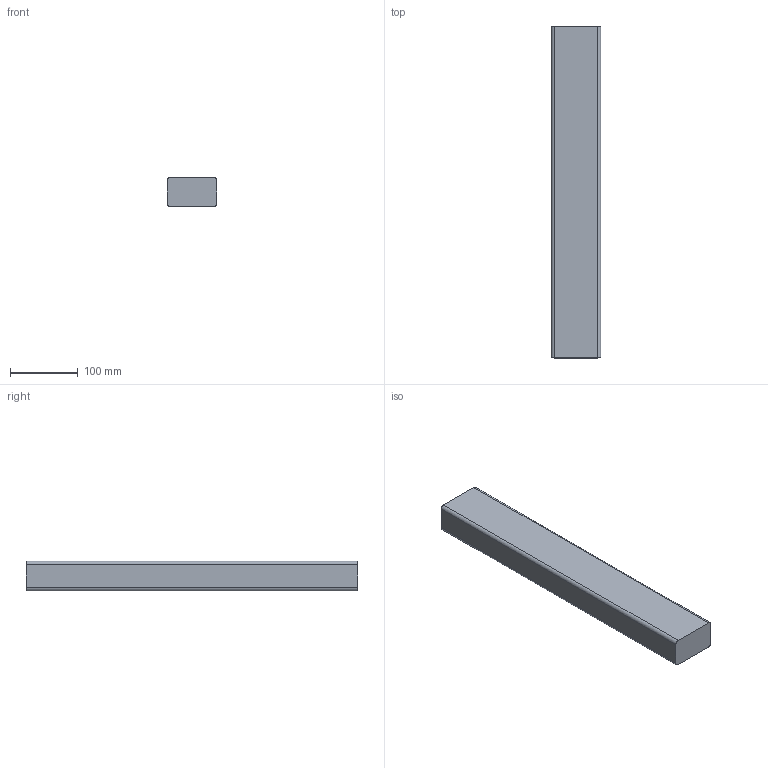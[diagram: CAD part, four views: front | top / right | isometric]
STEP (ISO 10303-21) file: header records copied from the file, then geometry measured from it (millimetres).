
FILE_DESCRIPTION((''),'2;1');
FILE_NAME('1041W7906-A-06-2_AF3','2019-12-13T13:47:27',('mbes'),(''),'CREO PARAMETRIC BY PTC INC, 2018400','CREO PARAMETRIC BY PTC INC, 2018400','');
FILE_SCHEMA(('AUTOMOTIVE_DESIGN { 1 0 10303 214 1 1 1 1 }'));
Length unit declared in the file: millimetre
Products named in the file (1): 1041W7906-A-06-2_AF3
Bounding box: 73.5 x 490 x 43.5 mm (x, y, z)
Volume: 1551998.3 mm3; surface area: 117125.6 mm2
Topology: 1 solids, 1 shells, 21 faces, 54 edges, 36 vertices
Faces by surface type: plane 12, cylinder 9
Entity records: 1237 total; most frequent: DIRECTION 186, CARTESIAN_POINT 175, ORIENTED_EDGE 108, VECTOR 88, LINE 88, COLOUR_RGB 63, CURVE_STYLE 54, PRESENTATION_STYLE_ASSIGNMENT 54
